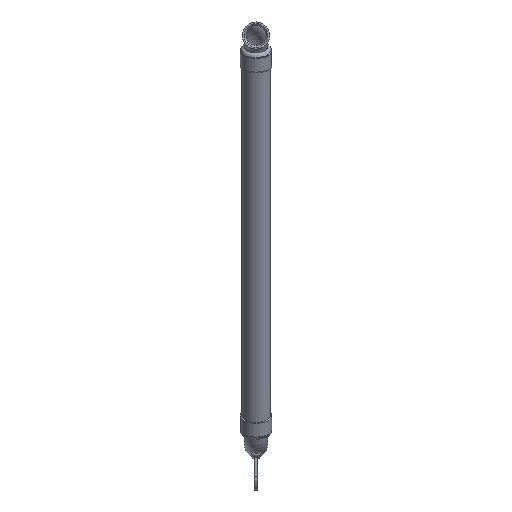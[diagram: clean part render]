
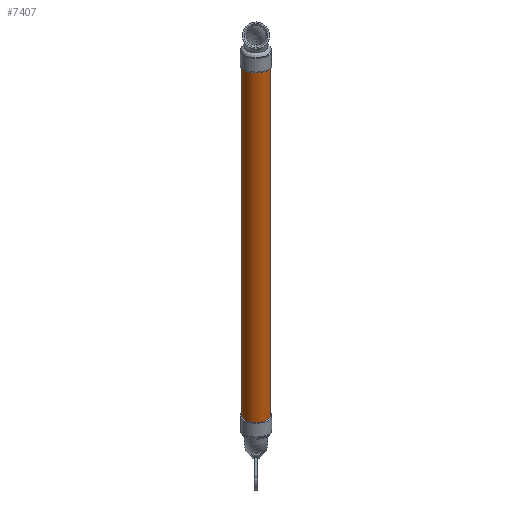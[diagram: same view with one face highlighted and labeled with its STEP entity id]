
A CAD part, front view. The second image highlights one B-rep face of the part: STEP entity #7407.
In plain terms, the highlighted cylindrical face has radius 13.767 mm (diameter 27.534 mm), a full revolution.
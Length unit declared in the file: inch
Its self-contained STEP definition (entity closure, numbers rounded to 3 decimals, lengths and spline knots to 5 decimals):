
#7380=CARTESIAN_POINT('',(0.0,0.0,0.0));
#7381=DIRECTION('',(0.0,0.0,1.0));
#7382=DIRECTION('',(-1.0,0.0,0.0));
#7383=AXIS2_PLACEMENT_3D('',#7380,#7381,#7382);
#7384=CYLINDRICAL_SURFACE('',#7383,0.542);
#7385=CARTESIAN_POINT('',(0.542,0.,16.41));
#7386=VERTEX_POINT('',#7385);
#7387=CARTESIAN_POINT('',(0.0,0.0,16.41));
#7388=DIRECTION('',(0.0,0.0,-1.0));
#7389=DIRECTION('',(-1.0,0.0,0.0));
#7390=AXIS2_PLACEMENT_3D('',#7387,#7388,#7389);
#7391=CIRCLE('',#7390,0.542);
#7392=EDGE_CURVE('',#7386,#7386,#7391,.T.);
#7393=ORIENTED_EDGE('',*,*,#7392,.T.);
#7394=EDGE_LOOP('',(#7393));
#7395=FACE_OUTER_BOUND('',#7394,.T.);
#7396=CARTESIAN_POINT('',(0.542,0.,0.0));
#7397=VERTEX_POINT('',#7396);
#7398=CARTESIAN_POINT('',(0.0,0.0,0.0));
#7399=DIRECTION('',(0.0,0.0,-1.0));
#7400=DIRECTION('',(-1.0,0.0,0.0));
#7401=AXIS2_PLACEMENT_3D('',#7398,#7399,#7400);
#7402=CIRCLE('',#7401,0.542);
#7403=EDGE_CURVE('',#7397,#7397,#7402,.T.);
#7404=ORIENTED_EDGE('',*,*,#7403,.F.);
#7405=EDGE_LOOP('',(#7404));
#7406=FACE_BOUND('',#7405,.T.);
#7407=ADVANCED_FACE('',(#7395,#7406),#7384,.T.);
